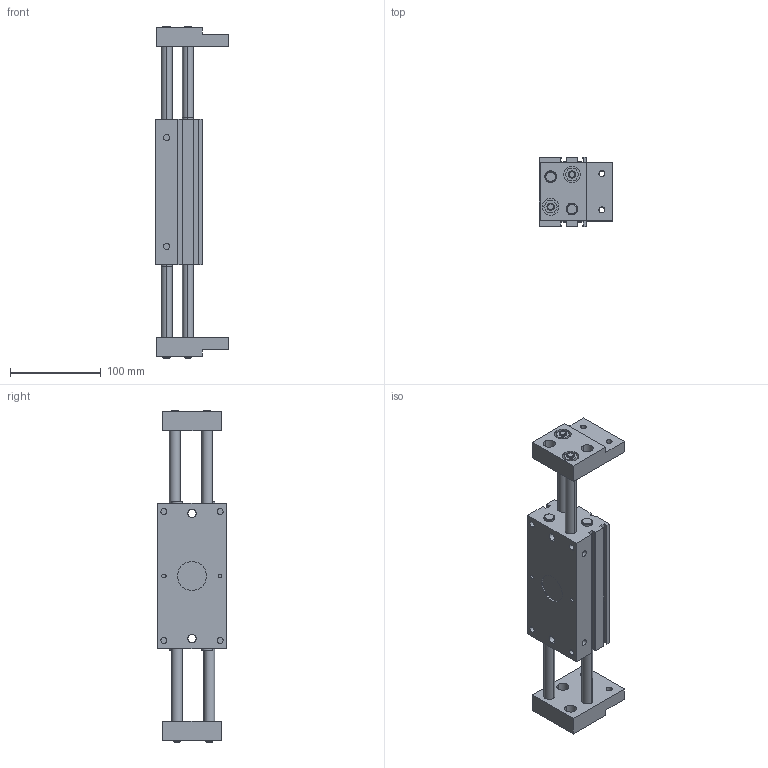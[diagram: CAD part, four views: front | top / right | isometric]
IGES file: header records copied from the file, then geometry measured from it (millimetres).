
Global section: file name: No Iges File Name specified; native system: AutoDesk Inventor R11.0; preprocessor: AutoDesk Inventor Iges Exporter R11.0; author: No Author specified; organization: No Organization specified; date: 20070224.105624; units: millimetre
Bounding box: 81 x 76 x 366 mm (x, y, z)
Volume: 805717.4 mm3; surface area: 161325.1 mm2
Topology: 3 solids, 3 shells, 203 faces, 494 edges, 324 vertices
Faces by surface type: plane 101, bspline 56, cylinder 16, cone 16, revolution 14
